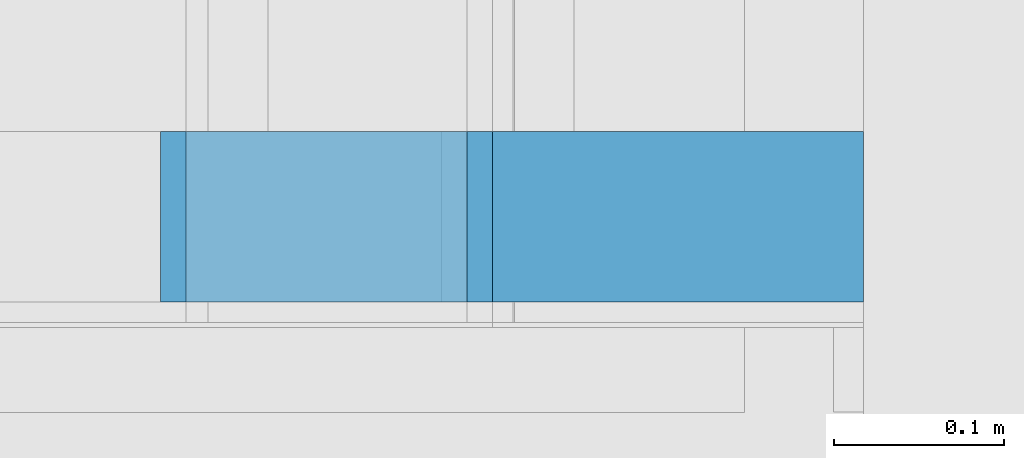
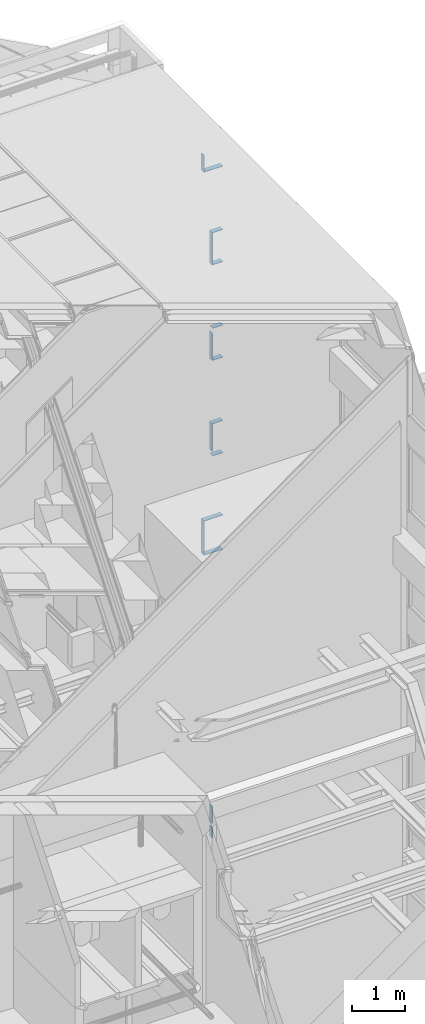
# One storey, part 235 of 583: 16 building element parts, 15 elements without a shape of their own.
"""IFC2X3 building model written with IfcOpenShell, lengths in metres."""

from ifc_helpers import new_model, entity, si_unit, converted_unit, derived_unit, money_unit, direction, frame, frame_2d, origin_with_axes, place, context, subcontext, project, spatial, polyline, rectangle, outline, extrude, material, type_object, element, aggregate, save


model = new_model("IFC2X3")

# Units and contexts
model_context = context("Model", 3, precision=1e-05, world=origin_with_axes(), true_north=direction((0.0, 1.0)))
body_context = subcontext(model_context, "Body", "Model", "MODEL_VIEW", scale=1.0)
ifc_project = project(units=[si_unit("LENGTHUNIT", "METRE"), si_unit("AREAUNIT", "SQUARE_METRE"), si_unit("VOLUMEUNIT", "CUBIC_METRE"), si_unit("ABSORBEDDOSEUNIT", "GRAY"), si_unit("AMOUNTOFSUBSTANCEUNIT", "MOLE"), si_unit("DOSEEQUIVALENTUNIT", "SIEVERT"), si_unit("ELECTRICCAPACITANCEUNIT", "FARAD"), si_unit("ELECTRICCHARGEUNIT", "COULOMB"), si_unit("ELECTRICCONDUCTANCEUNIT", "SIEMENS"), si_unit("ELECTRICCURRENTUNIT", "AMPERE"), si_unit("ELECTRICRESISTANCEUNIT", "OHM"), si_unit("ELECTRICVOLTAGEUNIT", "VOLT"), si_unit("ENERGYUNIT", "JOULE"), si_unit("FORCEUNIT", "NEWTON"), si_unit("FREQUENCYUNIT", "HERTZ"), si_unit("ILLUMINANCEUNIT", "LUX"), si_unit("INDUCTANCEUNIT", "HENRY"), si_unit("LUMINOUSFLUXUNIT", "LUMEN"), si_unit("LUMINOUSINTENSITYUNIT", "CANDELA"), si_unit("MAGNETICFLUXDENSITYUNIT", "TESLA"), si_unit("MAGNETICFLUXUNIT", "WEBER"), si_unit("MASSUNIT", "GRAM"), converted_unit("PLANEANGLEUNIT", "degree", entity("IfcReal", 0.0174532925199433), si_unit("PLANEANGLEUNIT", "RADIAN"), dimensions=[0, 0, 0, 0, 0, 0, 0]), si_unit("POWERUNIT", "WATT"), si_unit("PRESSUREUNIT", "PASCAL"), si_unit("RADIOACTIVITYUNIT", "BECQUEREL"), si_unit("SOLIDANGLEUNIT", "STERADIAN"), si_unit("THERMODYNAMICTEMPERATUREUNIT", "KELVIN"), si_unit("TIMEUNIT", "SECOND"), derived_unit("ACCELERATIONUNIT", [(si_unit("LENGTHUNIT", "METRE"), 1), (si_unit("TIMEUNIT", "SECOND"), -2)]), derived_unit("ANGULARVELOCITYUNIT", [(converted_unit("PLANEANGLEUNIT", "degree", entity("IfcReal", 0.0174532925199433), si_unit("PLANEANGLEUNIT", "RADIAN"), dimensions=[0, 0, 0, 0, 0, 0, 0]), 1), (si_unit("TIMEUNIT", "SECOND"), -1)]), derived_unit("CURVATUREUNIT", [(converted_unit("PLANEANGLEUNIT", "degree", entity("IfcReal", 0.0174532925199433), si_unit("PLANEANGLEUNIT", "RADIAN"), dimensions=[0, 0, 0, 0, 0, 0, 0]), 1), (si_unit("LENGTHUNIT", "METRE"), -1)]), derived_unit("DYNAMICVISCOSITYUNIT", [(si_unit("PRESSUREUNIT", "PASCAL"), 1), (si_unit("TIMEUNIT", "SECOND"), 1)]), derived_unit("HEATFLUXDENSITYUNIT", [(si_unit("POWERUNIT", "WATT"), 1), (si_unit("LENGTHUNIT", "METRE"), -2)]), derived_unit("HEATINGVALUEUNIT", [(si_unit("ENERGYUNIT", "JOULE"), 1), (si_unit("MASSUNIT", "GRAM"), -1)]), derived_unit("INTEGERCOUNTRATEUNIT", [(si_unit("TIMEUNIT", "SECOND"), -1)]), derived_unit("IONCONCENTRATIONUNIT", [(si_unit("MASSUNIT", "GRAM"), 1), (si_unit("VOLUMEUNIT", "CUBIC_METRE"), -1)]), derived_unit("ISOTHERMALMOISTURECAPACITYUNIT", [(si_unit("VOLUMEUNIT", "CUBIC_METRE"), 1), (si_unit("MASSUNIT", "GRAM"), -1)]), derived_unit("KINEMATICVISCOSITYUNIT", [(si_unit("AREAUNIT", "SQUARE_METRE"), 1), (si_unit("TIMEUNIT", "SECOND"), -1)]), derived_unit("LINEARFORCEUNIT", [(si_unit("FORCEUNIT", "NEWTON"), 1), (si_unit("LENGTHUNIT", "METRE"), -1)]), derived_unit("LINEARMOMENTUNIT", [(si_unit("FORCEUNIT", "NEWTON"), 1), (si_unit("LENGTHUNIT", "METRE"), -1)]), derived_unit("LINEARSTIFFNESSUNIT", [(si_unit("FORCEUNIT", "NEWTON"), 1), (si_unit("LENGTHUNIT", "METRE"), -1)]), derived_unit("LINEARVELOCITYUNIT", [(si_unit("LENGTHUNIT", "METRE"), 1), (si_unit("TIMEUNIT", "SECOND"), -1)]), derived_unit("LUMINOUSINTENSITYDISTRIBUTIONUNIT", [(si_unit("LUMINOUSINTENSITYUNIT", "CANDELA"), 1), (si_unit("LUMINOUSFLUXUNIT", "LUMEN"), -1)]), derived_unit("MASSDENSITYUNIT", [(si_unit("MASSUNIT", "GRAM"), 1), (si_unit("VOLUMEUNIT", "CUBIC_METRE"), -1)]), derived_unit("MASSFLOWRATEUNIT", [(si_unit("MASSUNIT", "GRAM"), 1), (si_unit("TIMEUNIT", "SECOND"), -1)]), derived_unit("MASSPERLENGTHUNIT", [(si_unit("MASSUNIT", "GRAM"), 1), (si_unit("LENGTHUNIT", "METRE"), -1)]), derived_unit("MODULUSOFELASTICITYUNIT", [(si_unit("FORCEUNIT", "NEWTON"), 1), (si_unit("AREAUNIT", "SQUARE_METRE"), -1)]), derived_unit("MODULUSOFLINEARSUBGRADEREACTIONUNIT", [(si_unit("FORCEUNIT", "NEWTON"), 1), (si_unit("LENGTHUNIT", "METRE"), -2)]), derived_unit("MODULUSOFROTATIONALSUBGRADEREACTIONUNIT", [(si_unit("FORCEUNIT", "NEWTON"), 1), (si_unit("LENGTHUNIT", "METRE"), 1)]), derived_unit("MODULUSOFSUBGRADEREACTIONUNIT", [(si_unit("FORCEUNIT", "NEWTON"), 1), (si_unit("VOLUMEUNIT", "CUBIC_METRE"), -1)]), derived_unit("MOISTUREDIFFUSIVITYUNIT", [(si_unit("VOLUMEUNIT", "CUBIC_METRE"), 1), (si_unit("TIMEUNIT", "SECOND"), -1)]), derived_unit("MOLECULARWEIGHTUNIT", [(si_unit("MASSUNIT", "GRAM"), 1), (si_unit("AMOUNTOFSUBSTANCEUNIT", "MOLE"), -1)]), derived_unit("PLANARFORCEUNIT", [(si_unit("FORCEUNIT", "NEWTON"), 1), (si_unit("LENGTHUNIT", "METRE"), -2)]), derived_unit("ROTATIONALFREQUENCYUNIT", [(si_unit("TIMEUNIT", "SECOND"), -1)]), derived_unit("ROTATIONALMASSUNIT", [(si_unit("MASSUNIT", "GRAM"), 1), (si_unit("LENGTHUNIT", "METRE"), 2)]), derived_unit("ROTATIONALSTIFFNESSUNIT", [(si_unit("FORCEUNIT", "NEWTON"), 1), (si_unit("LENGTHUNIT", "METRE"), 1), (converted_unit("PLANEANGLEUNIT", "degree", entity("IfcReal", 0.0174532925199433), si_unit("PLANEANGLEUNIT", "RADIAN"), dimensions=[0, 0, 0, 0, 0, 0, 0]), -1)]), derived_unit("SECTIONAREAINTEGRALUNIT", [(si_unit("LENGTHUNIT", "METRE"), 5)]), derived_unit("SECTIONMODULUSUNIT", [(si_unit("LENGTHUNIT", "METRE"), 3)]), derived_unit("SHEARMODULUSUNIT", [(si_unit("FORCEUNIT", "NEWTON"), 1), (si_unit("AREAUNIT", "SQUARE_METRE"), -1)]), derived_unit("SOUNDPOWERUNIT", [(si_unit("ENERGYUNIT", "JOULE"), 1), (si_unit("TIMEUNIT", "SECOND"), -1)]), derived_unit("SPECIFICHEATCAPACITYUNIT", [(si_unit("FORCEUNIT", "NEWTON"), 1), (si_unit("MASSUNIT", "GRAM"), -1), (si_unit("THERMODYNAMICTEMPERATUREUNIT", "KELVIN"), -1)]), derived_unit("TEMPERATUREGRADIENTUNIT", [(si_unit("THERMODYNAMICTEMPERATUREUNIT", "KELVIN"), 1), (si_unit("LENGTHUNIT", "METRE"), -1)]), derived_unit("THERMALADMITTANCEUNIT", [(si_unit("POWERUNIT", "WATT"), 1), (si_unit("AREAUNIT", "SQUARE_METRE"), -1), (si_unit("THERMODYNAMICTEMPERATUREUNIT", "KELVIN"), -1)]), derived_unit("THERMALCONDUCTANCEUNIT", [(si_unit("POWERUNIT", "WATT"), 1), (si_unit("LENGTHUNIT", "METRE"), -1), (si_unit("THERMODYNAMICTEMPERATUREUNIT", "KELVIN"), -1)]), derived_unit("THERMALEXPANSIONCOEFFICIENTUNIT", [(si_unit("THERMODYNAMICTEMPERATUREUNIT", "KELVIN"), -1)]), derived_unit("THERMALRESISTANCEUNIT", [(si_unit("AREAUNIT", "SQUARE_METRE"), 1), (si_unit("POWERUNIT", "WATT"), -1)]), derived_unit("THERMALTRANSMITTANCEUNIT", [(si_unit("POWERUNIT", "WATT"), 1), (si_unit("AREAUNIT", "SQUARE_METRE"), -1), (si_unit("THERMODYNAMICTEMPERATUREUNIT", "KELVIN"), -1)]), derived_unit("TORQUEUNIT", [(si_unit("FORCEUNIT", "NEWTON"), 1), (si_unit("LENGTHUNIT", "METRE"), 1)]), derived_unit("VAPORPERMEABILITYUNIT", [(si_unit("MASSUNIT", "GRAM"), 1), (si_unit("TIMEUNIT", "SECOND"), -1)]), derived_unit("VOLUMETRICFLOWRATEUNIT", [(si_unit("VOLUMEUNIT", "CUBIC_METRE"), 1), (si_unit("TIMEUNIT", "SECOND"), -1)]), derived_unit("WARPINGCONSTANTUNIT", [(si_unit("LENGTHUNIT", "METRE"), 6)]), derived_unit("WARPINGMOMENTUNIT", [(si_unit("FORCEUNIT", "NEWTON"), 1), (si_unit("LENGTHUNIT", "METRE"), 2)]), money_unit("GBP")], contexts=[model_context])

# Site, building, storey
site_placement = place(None, origin_with_axes())
site = spatial("IfcSite", under=ifc_project, at=site_placement, Name="Site", CompositionType="ELEMENT")
building_placement = place(site_placement, origin_with_axes())
building = spatial("IfcBuilding", under=site, at=building_placement, Name="Building01", CompositionType="ELEMENT")
storey_placement = place(building_placement, frame((0.0, 0.0, 20.78), z_axis=(0.0, 0.0, 1.0), x_axis=(1.0, 0.0, 0.0)))
storey = spatial("IfcBuildingStorey", under=building, at=storey_placement, Name="RL", CompositionType="ELEMENT", Elevation=20.78)

# Wall, building element part
wall_type = type_object("IfcWallType", Name="SHE_A-Walls_Type06d_ExternalWallInsulation_48mm", PredefinedType="NOTDEFINED")
wall_1_placement = place(storey_placement, frame((14.8, 12.13, -2.56), z_axis=(0.0, 1.0, 0.0), x_axis=(-1.0, 0.0, 0.0)))
wall_1 = element("IfcWall", 1, at=wall_1_placement, inside=storey, type_object=wall_type, Name="6D", ObjectType="SHE_A-Walls_Type06d_ExternalWallInsulation_48mm")
ifc_material = material(Name="A_BSUK_Walls_Timber")
building_element_part_1_placement = place(wall_1_placement, origin_with_axes())
building_element_part_1 = element("IfcBuildingElementPart", 2, at=building_element_part_1_placement, material=ifc_material, Name="2", context=body_context, shape_type="SweptSolid", body=[
    extrude(outline(polyline([(0.413, 0.063), (0.0, 0.063), (0.0, 0.048), (0.398, 0.048), (0.413, 0.063)])), frame((0.0, 0.0, 0.015), z_axis=(0.0, 0.0, 1.0), x_axis=(1.0, 0.0, 0.0)), (0.0, 0.0, 1.0), 0.1),
])
aggregate(wall_1, [building_element_part_1])

wall_2_placement = place(storey_placement, frame((14.45, 12.13, -2.56), z_axis=(0.0, 1.0, 0.0), x_axis=(0.0, 0.0, -1.0)))
wall_2 = element("IfcWall", 3, at=wall_2_placement, inside=storey, type_object=wall_type, Name="6D", ObjectType="SHE_A-Walls_Type06d_ExternalWallInsulation_48mm")
building_element_part_2_placement = place(wall_2_placement, origin_with_axes())
building_element_part_2 = element("IfcBuildingElementPart", 4, at=building_element_part_2_placement, material=ifc_material, Name="2", context=body_context, shape_type="SweptSolid", body=[
    extrude(outline(polyline([(0.733, 0.063), (-0.063, 0.063), (-0.048, 0.048), (0.718, 0.048), (0.733, 0.063)])), frame((0.0, 0.0, 0.015), z_axis=(0.0, 0.0, 1.0), x_axis=(1.0, 0.0, 0.0)), (0.0, 0.0, 1.0), 0.1),
])
aggregate(wall_2, [building_element_part_2])

wall_3_placement = place(storey_placement, frame((14.45, 12.13, -3.23), z_axis=(0.0, 1.0, 0.0), x_axis=(1.0, 0.0, 0.0)))
wall_3 = element("IfcWall", 5, at=wall_3_placement, inside=storey, type_object=wall_type, Name="6D", ObjectType="SHE_A-Walls_Type06d_ExternalWallInsulation_48mm")
building_element_part_3_placement = place(wall_3_placement, origin_with_axes())
building_element_part_3 = element("IfcBuildingElementPart", 6, at=building_element_part_3_placement, material=ifc_material, Name="2", context=body_context, shape_type="SweptSolid", body=[
    extrude(outline(polyline([(-0.063, 0.063), (-0.048, 0.048), (0.35, 0.048), (0.35, 0.063), (-0.063, 0.063)])), frame((0.0, 0.0, 0.015), z_axis=(0.0, 0.0, 1.0), x_axis=(1.0, 0.0, 0.0)), (0.0, 0.0, 1.0), 0.1),
])
aggregate(wall_3, [building_element_part_3])

wall_4_placement = place(storey_placement, frame((14.8, 12.13, -0.393), z_axis=(0.0, 1.0, 0.0), x_axis=(-1.0, 0.0, 0.0)))
wall_4 = element("IfcWall", 7, at=wall_4_placement, inside=storey, type_object=wall_type, Name="6D", ObjectType="SHE_A-Walls_Type06d_ExternalWallInsulation_48mm")
building_element_part_4_placement = place(wall_4_placement, origin_with_axes())
building_element_part_4 = element("IfcBuildingElementPart", 8, at=building_element_part_4_placement, material=ifc_material, Name="2", context=body_context, shape_type="SweptSolid", body=[
    extrude(outline(polyline([(0.233, 0.063), (0.0, 0.063), (0.0, 0.048), (0.218, 0.048), (0.233, 0.063)])), frame((0.0, 0.0, 0.015), z_axis=(0.0, 0.0, 1.0), x_axis=(1.0, 0.0, 0.0)), (0.0, 0.0, 1.0), 0.1),
])
aggregate(wall_4, [building_element_part_4])

wall_5_placement = place(storey_placement, frame((14.63, 12.13, -0.393), z_axis=(0.0, 1.0, 0.0), x_axis=(0.0, 0.0, -1.0)))
wall_5 = element("IfcWall", 9, at=wall_5_placement, inside=storey, type_object=wall_type, Name="6D", ObjectType="SHE_A-Walls_Type06d_ExternalWallInsulation_48mm")
building_element_part_5_placement = place(wall_5_placement, origin_with_axes())
building_element_part_5 = element("IfcBuildingElementPart", 10, at=building_element_part_5_placement, material=ifc_material, Name="2", context=body_context, shape_type="SweptSolid", body=[
    extrude(outline(polyline([(0.577, 0.063), (-0.063, 0.063), (-0.048, 0.048), (0.577, 0.048), (0.577, 0.063)])), frame((0.0, 0.0, 0.015), z_axis=(0.0, 0.0, 1.0), x_axis=(1.0, 0.0, 0.0)), (0.0, 0.0, 1.0), 0.1),
])
aggregate(wall_5, [building_element_part_5])

wall_6_placement = place(storey_placement, frame((14.63, 12.13, -1.017), z_axis=(0.0, 1.0, 0.0), x_axis=(1.0, 0.0, 0.0)))
wall_6 = element("IfcWall", 11, at=wall_6_placement, inside=storey, type_object=wall_type, Name="6D", ObjectType="SHE_A-Walls_Type06d_ExternalWallInsulation_48mm")
building_element_part_6_placement = place(wall_6_placement, origin_with_axes())
building_element_part_6 = element("IfcBuildingElementPart", 12, at=building_element_part_6_placement, material=ifc_material, Name="2", context=body_context, shape_type="SweptSolid", body=[
    extrude(rectangle(XDim=0.218, YDim=0.015, at=frame_2d((0.061, 0.0555), x_axis=(1.0, 0.0))), frame((0.0, 0.0, 0.015), z_axis=(0.0, 0.0, 1.0), x_axis=(1.0, 0.0, 0.0)), (0.0, 0.0, 1.0), 0.1),
])
aggregate(wall_6, [building_element_part_6])

wall_7_placement = place(storey_placement, frame((14.8, 12.13, 1.797), z_axis=(0.0, 1.0, 0.0), x_axis=(-1.0, 0.0, 0.0)))
wall_7 = element("IfcWall", 13, at=wall_7_placement, inside=storey, type_object=wall_type, Name="6D", ObjectType="SHE_A-Walls_Type06d_ExternalWallInsulation_48mm")
building_element_part_7_placement = place(wall_7_placement, origin_with_axes())
building_element_part_7 = element("IfcBuildingElementPart", 14, at=building_element_part_7_placement, material=ifc_material, Name="2", context=body_context, shape_type="SweptSolid", body=[
    extrude(rectangle(XDim=0.218, YDim=0.015, at=frame_2d((0.109, 0.0555), x_axis=(1.0, 0.0))), frame((0.0, 0.0, 0.015), z_axis=(0.0, 0.0, 1.0), x_axis=(1.0, 0.0, 0.0)), (0.0, 0.0, 1.0), 0.1),
])
aggregate(wall_7, [building_element_part_7])

wall_8_placement = place(storey_placement, frame((14.63, 12.13, 1.797), z_axis=(0.0, 1.0, 0.0), x_axis=(0.0, 0.0, -1.0)))
wall_8 = element("IfcWall", 15, at=wall_8_placement, inside=storey, type_object=wall_type, Name="6D", ObjectType="SHE_A-Walls_Type06d_ExternalWallInsulation_48mm")
building_element_part_8_placement = place(wall_8_placement, origin_with_axes())
building_element_part_8 = element("IfcBuildingElementPart", 16, at=building_element_part_8_placement, material=ifc_material, Name="2", context=body_context, shape_type="SweptSolid", body=[
    extrude(outline(polyline([(0.687, 0.063), (0.047, 0.063), (0.047, 0.048), (0.672, 0.048), (0.687, 0.063)])), frame((0.0, 0.0, 0.015), z_axis=(0.0, 0.0, 1.0), x_axis=(1.0, 0.0, 0.0)), (0.0, 0.0, 1.0), 0.1),
])
aggregate(wall_8, [building_element_part_8])

wall_9_placement = place(storey_placement, frame((14.63, 12.13, 1.173), z_axis=(0.0, 1.0, 0.0), x_axis=(1.0, 0.0, 0.0)))
wall_9 = element("IfcWall", 17, at=wall_9_placement, inside=storey, type_object=wall_type, Name="6D", ObjectType="SHE_A-Walls_Type06d_ExternalWallInsulation_48mm")
building_element_part_9_placement = place(wall_9_placement, origin_with_axes())
building_element_part_9 = element("IfcBuildingElementPart", 18, at=building_element_part_9_placement, material=ifc_material, Name="2", context=body_context, shape_type="SweptSolid", body=[
    extrude(outline(polyline([(-0.063, 0.063), (-0.048, 0.048), (0.17, 0.048), (0.17, 0.063), (-0.063, 0.063)])), frame((0.0, 0.0, 0.015), z_axis=(0.0, 0.0, 1.0), x_axis=(1.0, 0.0, 0.0)), (0.0, 0.0, 1.0), 0.1),
])
aggregate(wall_9, [building_element_part_9])

wall_10_placement = place(storey_placement, frame((14.8, 12.13, 3.987), z_axis=(0.0, 1.0, 0.0), x_axis=(-1.0, 0.0, 0.0)))
wall_10 = element("IfcWall", 19, at=wall_10_placement, inside=storey, type_object=wall_type, Name="6D", ObjectType="SHE_A-Walls_Type06d_ExternalWallInsulation_48mm")
building_element_part_10_placement = place(wall_10_placement, origin_with_axes())
building_element_part_10 = element("IfcBuildingElementPart", 20, at=building_element_part_10_placement, material=ifc_material, Name="2", context=body_context, shape_type="SweptSolid", body=[
    extrude(outline(polyline([(0.233, 0.063), (0.0, 0.063), (0.0, 0.048), (0.218, 0.048), (0.233, 0.063)])), frame((0.0, 0.0, 0.015), z_axis=(0.0, 0.0, 1.0), x_axis=(1.0, 0.0, 0.0)), (0.0, 0.0, 1.0), 0.1),
])
aggregate(wall_10, [building_element_part_10])

wall_11_placement = place(storey_placement, frame((14.63, 12.13, 3.987), z_axis=(0.0, 1.0, 0.0), x_axis=(0.0, 0.0, -1.0)))
wall_11 = element("IfcWall", 21, at=wall_11_placement, inside=storey, type_object=wall_type, Name="6D", ObjectType="SHE_A-Walls_Type06d_ExternalWallInsulation_48mm")
building_element_part_11_placement = place(wall_11_placement, origin_with_axes())
building_element_part_11 = element("IfcBuildingElementPart", 22, at=building_element_part_11_placement, material=ifc_material, Name="2", context=body_context, shape_type="SweptSolid", body=[
    extrude(outline(polyline([(0.687, 0.063), (-0.063, 0.063), (-0.048, 0.048), (0.672, 0.048), (0.687, 0.063)])), frame((0.0, 0.0, 0.015), z_axis=(0.0, 0.0, 1.0), x_axis=(1.0, 0.0, 0.0)), (0.0, 0.0, 1.0), 0.1),
])
aggregate(wall_11, [building_element_part_11])

wall_12_placement = place(storey_placement, frame((14.63, 12.13, 3.363), z_axis=(0.0, 1.0, 0.0), x_axis=(1.0, 0.0, 0.0)))
wall_12 = element("IfcWall", 23, at=wall_12_placement, inside=storey, type_object=wall_type, Name="6D", ObjectType="SHE_A-Walls_Type06d_ExternalWallInsulation_48mm")
building_element_part_12_placement = place(wall_12_placement, origin_with_axes())
building_element_part_12 = element("IfcBuildingElementPart", 24, at=building_element_part_12_placement, material=ifc_material, Name="2", context=body_context, shape_type="SweptSolid", body=[
    extrude(outline(polyline([(-0.063, 0.063), (-0.048, 0.048), (0.17, 0.048), (0.17, 0.063), (-0.063, 0.063)])), frame((0.0, 0.0, 0.015), z_axis=(0.0, 0.0, 1.0), x_axis=(1.0, 0.0, 0.0)), (0.0, 0.0, 1.0), 0.1),
])
aggregate(wall_12, [building_element_part_12])

wall_13_placement = place(storey_placement, frame((14.45, 12.13, 5.93), z_axis=(0.0, 1.0, 0.0), x_axis=(0.0, 0.0, -1.0)))
wall_13 = element("IfcWall", 25, at=wall_13_placement, inside=storey, type_object=wall_type, Name="6D", ObjectType="SHE_A-Walls_Type06d_ExternalWallInsulation_48mm")
building_element_part_13_placement = place(wall_13_placement, origin_with_axes())
building_element_part_13 = element("IfcBuildingElementPart", 26, at=building_element_part_13_placement, material=ifc_material, Name="2", context=body_context, shape_type="SweptSolid", body=[
    extrude(outline(polyline([(0.44, 0.063), (0.063, 0.063), (0.048, 0.048), (0.425, 0.048), (0.44, 0.063)])), frame((0.0, 0.0, 0.015), z_axis=(0.0, 0.0, 1.0), x_axis=(1.0, 0.0, 0.0)), (0.0, 0.0, 1.0), 0.1),
])
aggregate(wall_13, [building_element_part_13])

wall_14_placement = place(storey_placement, frame((14.45, 12.13, 5.553), z_axis=(0.0, 1.0, 0.0), x_axis=(1.0, 0.0, 0.0)))
wall_14 = element("IfcWall", 27, at=wall_14_placement, inside=storey, type_object=wall_type, Name="6D", ObjectType="SHE_A-Walls_Type06d_ExternalWallInsulation_48mm")
building_element_part_14_placement = place(wall_14_placement, origin_with_axes())
building_element_part_14 = element("IfcBuildingElementPart", 28, at=building_element_part_14_placement, material=ifc_material, Name="2", context=body_context, shape_type="SweptSolid", body=[
    extrude(outline(polyline([(-0.063, 0.063), (-0.048, 0.048), (0.35, 0.048), (0.35, 0.063), (-0.063, 0.063)])), frame((0.0, 0.0, 0.015), z_axis=(0.0, 0.0, 1.0), x_axis=(1.0, 0.0, 0.0)), (0.0, 0.0, 1.0), 0.1),
])
aggregate(wall_14, [building_element_part_14])

# Wall, building element parts
wall_15_placement = place(storey_placement, frame((14.63, 12.13, -9.153), z_axis=(0.0, 1.0, 0.0), x_axis=(0.0, 0.0, -1.0)))
wall_15 = element("IfcWall", 29, at=wall_15_placement, inside=storey, type_object=wall_type, Name="6D", ObjectType="SHE_A-Walls_Type06d_ExternalWallInsulation_48mm")
placement = place(wall_15_placement, origin_with_axes())
building_element_part_15 = element("IfcBuildingElementPart", 30, at=placement, material=ifc_material, Name="2", context=body_context, shape_type="SweptSolid", body=[
    extrude(outline(polyline([(0.352, 0.063), (-0.063, 0.063), (-0.048, 0.048), (0.352, 0.048), (0.352, 0.063)])), frame((0.0, 0.0, 0.015), z_axis=(0.0, 0.0, 1.0), x_axis=(1.0, 0.0, 0.0)), (0.0, 0.0, 1.0), 0.1),
])
building_element_part_16 = element("IfcBuildingElementPart", 31, at=placement, material=ifc_material, Name="3", context=body_context, shape_type="SweptSolid", body=[
    extrude(outline(polyline([(0.687, 0.063), (0.447, 0.063), (0.447, 0.048), (0.672, 0.048), (0.687, 0.063)])), frame((0.0, 0.0, 0.015), z_axis=(0.0, 0.0, 1.0), x_axis=(1.0, 0.0, 0.0)), (0.0, 0.0, 1.0), 0.1),
])
aggregate(wall_15, [building_element_part_15, building_element_part_16])

save(model, "model.ifc")
